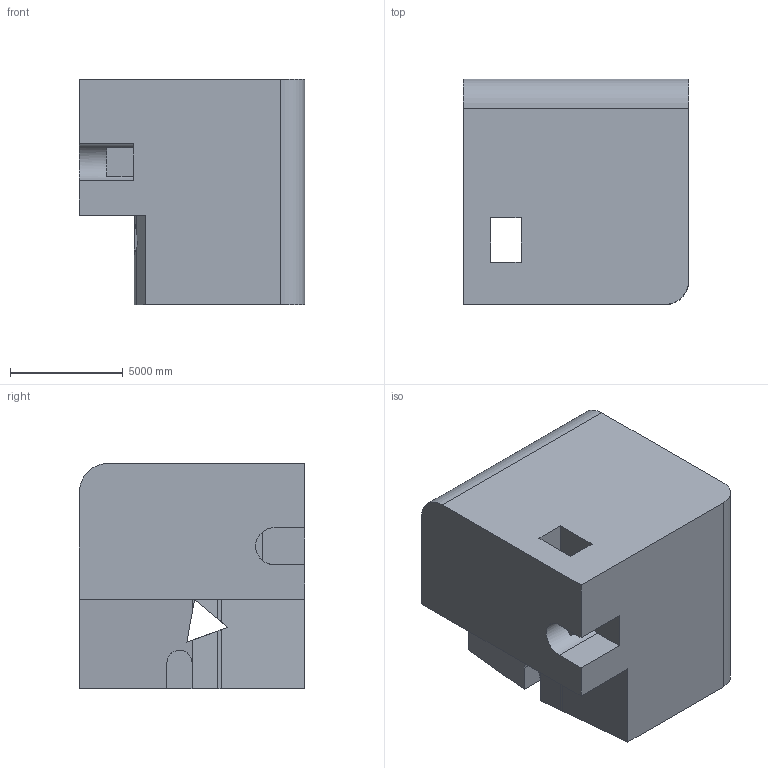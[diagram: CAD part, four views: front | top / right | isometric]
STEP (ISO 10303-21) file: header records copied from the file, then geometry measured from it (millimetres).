
FILE_DESCRIPTION (( 'STEP AP203' ), '1' );
FILE_NAME ('866.STEP', '2022-07-29T13:50:10', ( 'user' ), ( '' ), 'SwSTEP 2.0', 'SolidWorks 2021', '' );
FILE_SCHEMA (( 'CONFIG_CONTROL_DESIGN' ));
Length unit declared in the file: centimetre
Products named in the file (1): 866
Bounding box: 10000 x 10000 x 10000 mm (x, y, z)
Volume: 836355472614.7 mm3; surface area: 652181044.4 mm2
Topology: 1 solids, 1 shells, 42 faces, 128 edges, 85 vertices
Faces by surface type: plane 36, cylinder 6
Entity records: 1505 total; most frequent: CARTESIAN_POINT 262, ORIENTED_EDGE 256, DIRECTION 224, EDGE_CURVE 128, VECTOR 114, LINE 114, VERTEX_POINT 85, AXIS2_PLACEMENT_3D 55
